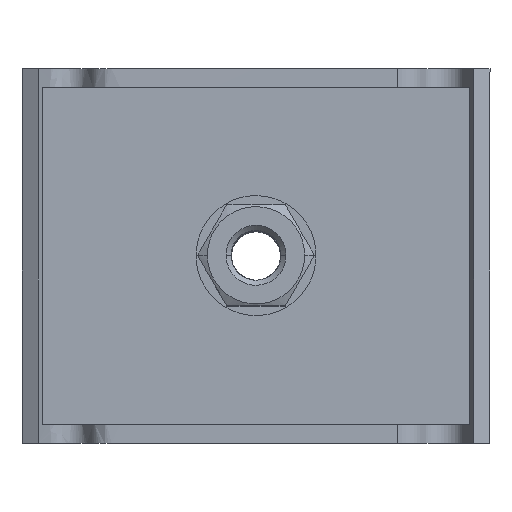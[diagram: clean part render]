
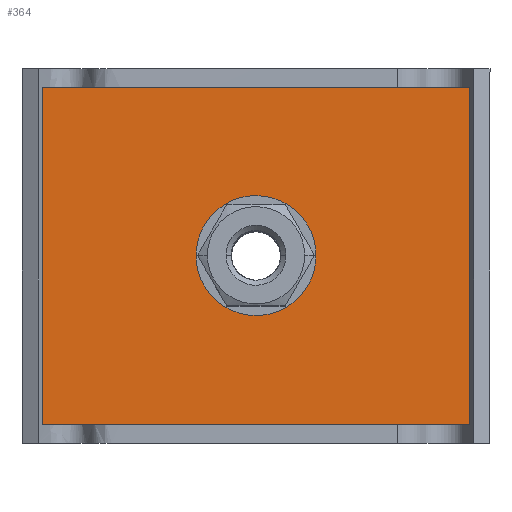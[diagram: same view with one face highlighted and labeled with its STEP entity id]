
A CAD part, top view. The second image highlights one B-rep face of the part: STEP entity #364.
In plain terms, the highlighted planar face has unit normal (0, 0, 1).
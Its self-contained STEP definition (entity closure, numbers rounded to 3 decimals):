
#36=FACE_BOUND($,#501,.T.);
#87=(
BOUNDED_CURVE()
B_SPLINE_CURVE(2,(#2022,#2023,#2024,#2025,#2026,#2027,#2028,#2029,#2030),
.UNSPECIFIED.,.T.,.F.)
B_SPLINE_CURVE_WITH_KNOTS((3,2,2,2,3),(-26.386,-19.79,
-13.193,-6.597,0.),.UNSPECIFIED.)
CURVE()
GEOMETRIC_REPRESENTATION_ITEM()
RATIONAL_B_SPLINE_CURVE((1.,0.707,1.,0.707,1.,0.707,
1.,0.707,1.))
REPRESENTATION_ITEM($)
);
#364=ADVANCED_FACE($,(#431,#36),#1206,.T.);
#431=FACE_OUTER_BOUND($,#500,.T.);
#500=EDGE_LOOP($,(#635,#636,#637,#638));
#501=EDGE_LOOP($,(#639));
#635=ORIENTED_EDGE($,*,*,#929,.T.);
#636=ORIENTED_EDGE($,*,*,#932,.T.);
#637=ORIENTED_EDGE($,*,*,#931,.T.);
#638=ORIENTED_EDGE($,*,*,#930,.T.);
#639=ORIENTED_EDGE($,*,*,#933,.T.);
#929=EDGE_CURVE($,#1117,#1120,#1285,.T.);
#930=EDGE_CURVE($,#1118,#1117,#1286,.T.);
#931=EDGE_CURVE($,#1119,#1118,#1287,.T.);
#932=EDGE_CURVE($,#1120,#1119,#1288,.T.);
#933=EDGE_CURVE($,#1121,#1121,#87,.T.);
#1117=VERTEX_POINT($,#2032);
#1118=VERTEX_POINT($,#2033);
#1119=VERTEX_POINT($,#2034);
#1120=VERTEX_POINT($,#2035);
#1121=VERTEX_POINT($,#2036);
#1206=PLANE($,#1398);
#1285=B_SPLINE_CURVE_WITH_KNOTS($,1,(#2014,#2015),.UNSPECIFIED.,.F.,.F.,
(2,2),(0.,57.),.UNSPECIFIED.);
#1286=B_SPLINE_CURVE_WITH_KNOTS($,1,(#2016,#2017),.UNSPECIFIED.,.F.,.F.,
(2,2),(159.,204.),.UNSPECIFIED.);
#1287=B_SPLINE_CURVE_WITH_KNOTS($,1,(#2018,#2019),.UNSPECIFIED.,.F.,.F.,
(2,2),(102.,159.),.UNSPECIFIED.);
#1288=B_SPLINE_CURVE_WITH_KNOTS($,1,(#2020,#2021),.UNSPECIFIED.,.F.,.F.,
(2,2),(57.,102.),.UNSPECIFIED.);
#1398=AXIS2_PLACEMENT_3D($,#2031,#1437,$);
#1437=DIRECTION($,(0.,0.,1.));
#2014=CARTESIAN_POINT($,(-28.5,-22.5,11.581));
#2015=CARTESIAN_POINT($,(28.5,-22.5,11.581));
#2016=CARTESIAN_POINT($,(-28.5,22.5,11.581));
#2017=CARTESIAN_POINT($,(-28.5,-22.5,11.581));
#2018=CARTESIAN_POINT($,(28.5,22.5,11.581));
#2019=CARTESIAN_POINT($,(-28.5,22.5,11.581));
#2020=CARTESIAN_POINT($,(28.5,-22.5,11.581));
#2021=CARTESIAN_POINT($,(28.5,22.5,11.581));
#2022=CARTESIAN_POINT($,(4.2,0.,11.581));
#2023=CARTESIAN_POINT($,(4.2,-4.2,11.581));
#2024=CARTESIAN_POINT($,(0.,-4.2,11.581));
#2025=CARTESIAN_POINT($,(-4.2,-4.2,11.581));
#2026=CARTESIAN_POINT($,(-4.2,0.,11.581));
#2027=CARTESIAN_POINT($,(-4.2,4.2,11.581));
#2028=CARTESIAN_POINT($,(0.,4.2,11.581));
#2029=CARTESIAN_POINT($,(4.2,4.2,11.581));
#2030=CARTESIAN_POINT($,(4.2,0.,11.581));
#2031=CARTESIAN_POINT($,(-28.5,-22.5,11.581));
#2032=CARTESIAN_POINT($,(-28.5,-22.5,11.581));
#2033=CARTESIAN_POINT($,(-28.5,22.5,11.581));
#2034=CARTESIAN_POINT($,(28.5,22.5,11.581));
#2035=CARTESIAN_POINT($,(28.5,-22.5,11.581));
#2036=CARTESIAN_POINT($,(4.2,0.,11.581));
